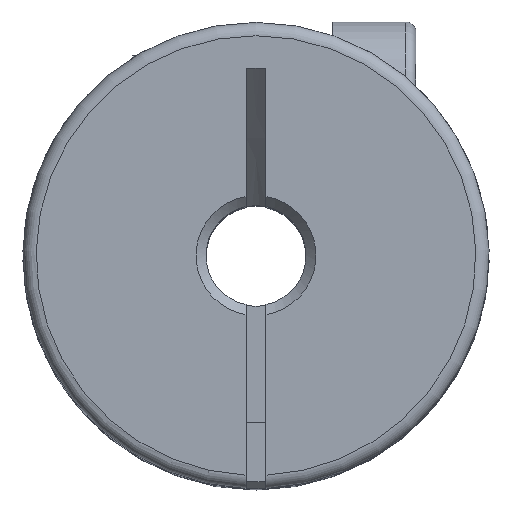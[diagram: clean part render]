
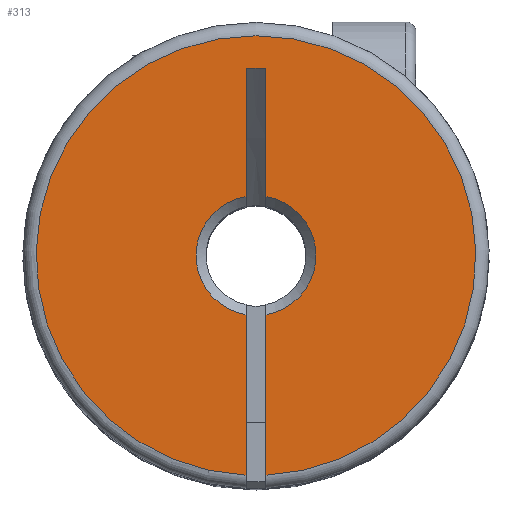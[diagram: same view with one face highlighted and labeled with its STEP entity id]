
A CAD part, top view. The second image highlights one B-rep face of the part: STEP entity #313.
In plain terms, the highlighted planar face has unit normal (0, 0, 1).
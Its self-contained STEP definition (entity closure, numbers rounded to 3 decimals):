
#205=CIRCLE('',#1689,1.8);
#211=CIRCLE('',#1697,6.6);
#220=CIRCLE('',#1709,1.8);
#221=CIRCLE('',#1710,5.618);
#313=ADVANCED_FACE('',(#418),#365,.F.);
#365=PLANE('',#1711);
#418=FACE_OUTER_BOUND('',#514,.T.);
#514=EDGE_LOOP('',(#868,#869,#870,#871,#872,#873,#874,#875));
#868=ORIENTED_EDGE('',*,*,#1318,.T.);
#869=ORIENTED_EDGE('',*,*,#1341,.F.);
#870=ORIENTED_EDGE('',*,*,#1342,.T.);
#871=ORIENTED_EDGE('',*,*,#1343,.F.);
#872=ORIENTED_EDGE('',*,*,#1344,.T.);
#873=ORIENTED_EDGE('',*,*,#1345,.T.);
#874=ORIENTED_EDGE('',*,*,#1305,.T.);
#875=ORIENTED_EDGE('',*,*,#1346,.T.);
#1114=VERTEX_POINT('',#2665);
#1115=VERTEX_POINT('',#2666);
#1126=VERTEX_POINT('',#2712);
#1127=VERTEX_POINT('',#2714);
#1147=VERTEX_POINT('',#2854);
#1148=VERTEX_POINT('',#2856);
#1149=VERTEX_POINT('',#2858);
#1150=VERTEX_POINT('',#2860);
#1305=EDGE_CURVE('',#1114,#1115,#205,.T.);
#1318=EDGE_CURVE('',#1127,#1126,#211,.T.);
#1341=EDGE_CURVE('',#1147,#1126,#1467,.T.);
#1342=EDGE_CURVE('',#1147,#1148,#220,.T.);
#1343=EDGE_CURVE('',#1149,#1148,#1468,.T.);
#1344=EDGE_CURVE('',#1149,#1150,#221,.T.);
#1345=EDGE_CURVE('',#1150,#1114,#1469,.T.);
#1346=EDGE_CURVE('',#1115,#1127,#1470,.T.);
#1467=LINE('',#2853,#1547);
#1468=LINE('',#2857,#1548);
#1469=LINE('',#2861,#1549);
#1470=LINE('',#2862,#1550);
#1547=VECTOR('',#2101,1.);
#1548=VECTOR('',#2104,1.);
#1549=VECTOR('',#2107,1.);
#1550=VECTOR('',#2108,1.);
#1689=AXIS2_PLACEMENT_3D('',#2664,#2048,#2049);
#1697=AXIS2_PLACEMENT_3D('',#2713,#2068,#2069);
#1709=AXIS2_PLACEMENT_3D('',#2855,#2102,#2103);
#1710=AXIS2_PLACEMENT_3D('',#2859,#2105,#2106);
#1711=AXIS2_PLACEMENT_3D('',#2863,#2109,#2110);
#2048=DIRECTION('',(0.,0.,-1.));
#2049=DIRECTION('',(-1.,0.,0.));
#2068=DIRECTION('',(0.,0.,1.));
#2069=DIRECTION('',(-1.,0.,0.));
#2101=DIRECTION('',(0.,-1.,0.));
#2102=DIRECTION('',(0.,0.,-1.));
#2103=DIRECTION('',(-1.,0.,0.));
#2104=DIRECTION('',(0.,-1.,0.));
#2105=DIRECTION('',(0.,0.,-1.));
#2106=DIRECTION('',(-1.,0.,0.));
#2107=DIRECTION('',(0.,-1.,0.));
#2108=DIRECTION('',(0.,-1.,0.));
#2109=DIRECTION('',(0.,0.,-1.));
#2110=DIRECTION('',(1.,0.,0.));
#2664=CARTESIAN_POINT('',(80.438,80.877,13.6));
#2665=CARTESIAN_POINT('',(80.738,82.652,13.6));
#2666=CARTESIAN_POINT('',(80.738,79.102,13.6));
#2712=CARTESIAN_POINT('',(80.138,74.284,13.6));
#2713=CARTESIAN_POINT('',(80.438,80.877,13.6));
#2714=CARTESIAN_POINT('',(80.738,74.284,13.6));
#2853=CARTESIAN_POINT('',(80.138,87.388,13.6));
#2854=CARTESIAN_POINT('',(80.138,79.102,13.6));
#2855=CARTESIAN_POINT('',(80.438,80.877,13.6));
#2856=CARTESIAN_POINT('',(80.138,82.652,13.6));
#2857=CARTESIAN_POINT('',(80.138,87.388,13.6));
#2858=CARTESIAN_POINT('',(80.138,86.488,13.6));
#2859=CARTESIAN_POINT('',(80.438,80.877,13.6));
#2860=CARTESIAN_POINT('',(80.738,86.488,13.6));
#2861=CARTESIAN_POINT('',(80.738,87.388,13.6));
#2862=CARTESIAN_POINT('',(80.738,87.388,13.6));
#2863=CARTESIAN_POINT('',(80.42,87.388,13.6));
